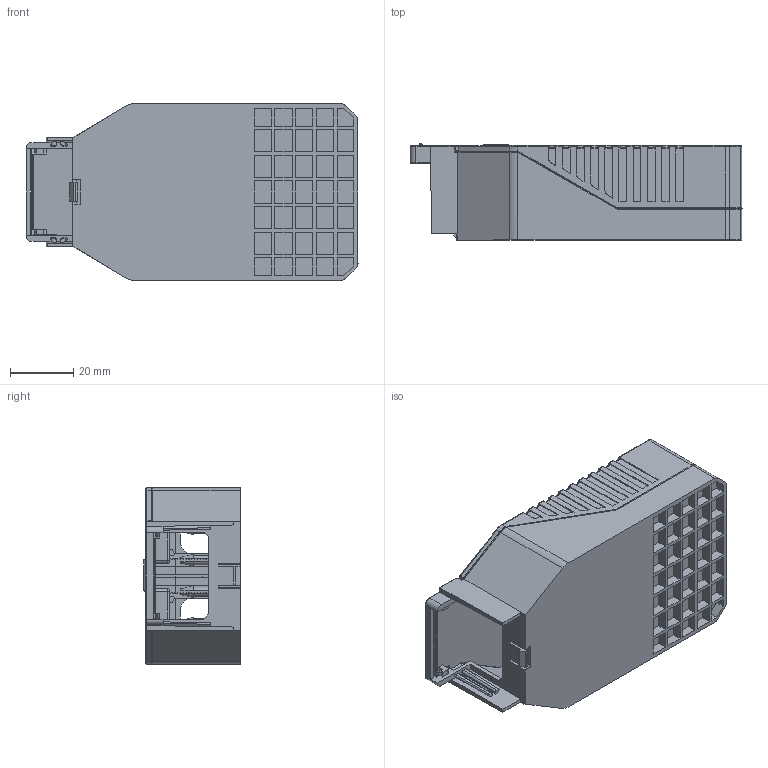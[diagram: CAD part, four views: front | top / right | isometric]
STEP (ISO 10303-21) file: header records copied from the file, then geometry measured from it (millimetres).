
FILE_DESCRIPTION (( 'STEP AP203' ), '1' );
FILE_NAME ('T5996 LC-SR-MINI-LOOP.STEP', '2022-11-28T09:24:07', ( '' ), ( '' ), 'SwSTEP 2.0', 'SolidWorks 2021', '' );
FILE_SCHEMA (( 'CONFIG_CONTROL_DESIGN' ));
Length unit declared in the file: millimetre
Products named in the file (4): T5996 LC-SR-MINI-LOOP; T5997_Frame_4pinn; Klipsu; T5997_Cover
Assembly tree (4 placements, depth 2):
  T5996 LC-SR-MINI-LOOP
    T5997_Frame_4pinn
    T5997_Cover
    Klipsu  x2
Bounding box: 105.4 x 30.6 x 56 mm (x, y, z)
Volume: 30528 mm3; surface area: 44506.3 mm2
Topology: 4 solids, 4 shells, 1710 faces, 4812 edges, 3150 vertices
Faces by surface type: plane 1251, cylinder 354, torus 45, bspline 40, cone 12, sphere 8
Entity records: 53381 total; most frequent: CARTESIAN_POINT 13190, ORIENTED_EDGE 8748, DIRECTION 7615, EDGE_CURVE 4374, LINE 3387, VECTOR 3387, VERTEX_POINT 2866, AXIS2_PLACEMENT_3D 2114
